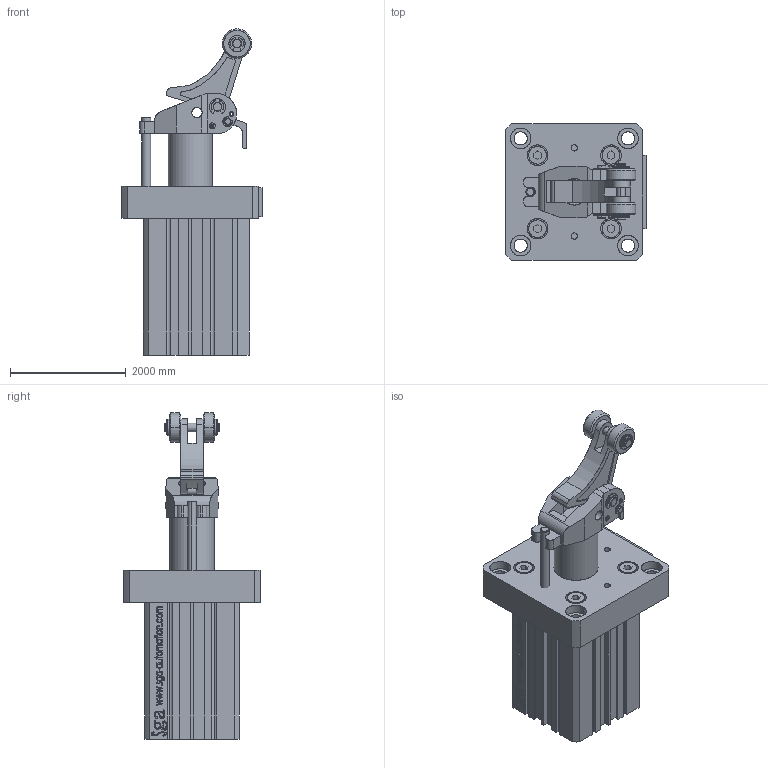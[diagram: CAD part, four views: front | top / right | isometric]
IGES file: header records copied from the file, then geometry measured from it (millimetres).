
Start section: SolidWorks IGES file using analytic representation for surfaces
Global section: file name: D:\Documents de SGA\Pieces 2D et 3D\GTF\gtf 50.IGS; native system: SolidWorks 2010; preprocessor: SolidWorks 2010; author: SGA; date: 111116.142700; units: millimetre
Bounding box: 2420.62 x 2362.2 x 5638.8 mm (x, y, z)
Surface area: 78366665.6 mm2 (no closed solid volume)
Topology: 0 solids, 0 shells, 1124 faces, 28010 edges, 28113 vertices
Faces by surface type: bspline 755, revolution 369
